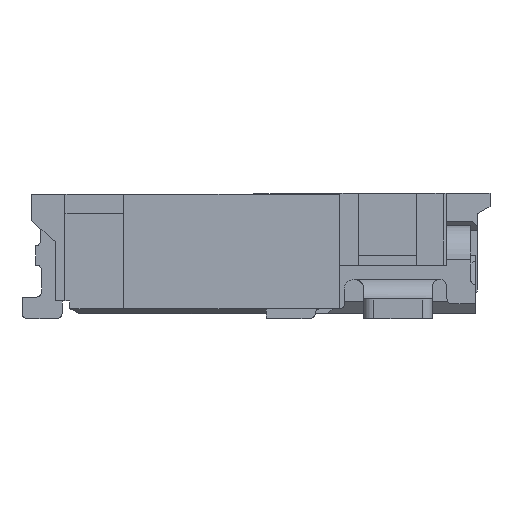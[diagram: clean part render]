
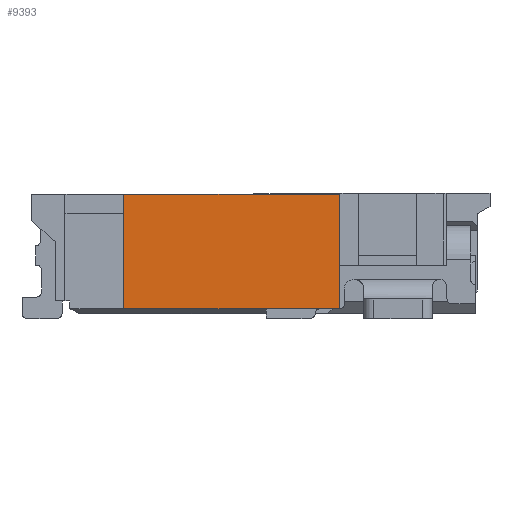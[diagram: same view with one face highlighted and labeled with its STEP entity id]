
A CAD part, front view. The second image highlights one B-rep face of the part: STEP entity #9393.
In plain terms, the highlighted planar face has unit normal (0, -1, 0).
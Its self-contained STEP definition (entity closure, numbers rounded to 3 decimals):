
#380 = CARTESIAN_POINT ( 'NONE',  ( -0.66, -2.9, 1.27 ) ) ;
#598 = DIRECTION ( 'NONE',  ( 0., 0., 1. ) ) ;
#3347 = CARTESIAN_POINT ( 'NONE',  ( 1.55, -2.9, 0.1 ) ) ;
#4935 = VECTOR ( 'NONE', #39461, 1000. ) ;
#6961 = EDGE_CURVE ( 'NONE', #25648, #20935, #33091, .T. ) ;
#8930 = VECTOR ( 'NONE', #35439, 1000. ) ;
#9393 = ADVANCED_FACE ( 'NONE', ( #45099 ), #28753, .F. ) ;
#9677 = VECTOR ( 'NONE', #39605, 1000. ) ;
#14872 = LINE ( 'NONE', #3347, #41913 ) ;
#17768 = CARTESIAN_POINT ( 'NONE',  ( -0.66, -2.9, 0.1 ) ) ;
#18284 = LINE ( 'NONE', #35301, #8930 ) ;
#19168 = EDGE_CURVE ( 'NONE', #25648, #43814, #18284, .T. ) ;
#20935 = VERTEX_POINT ( 'NONE', #17768 ) ;
#21817 = DIRECTION ( 'NONE',  ( 0., 1., 0. ) ) ;
#25648 = VERTEX_POINT ( 'NONE', #37152 ) ;
#26033 = EDGE_CURVE ( 'NONE', #20935, #43050, #37746, .T. ) ;
#28753 = PLANE ( 'NONE',  #35668 ) ;
#30361 = CARTESIAN_POINT ( 'NONE',  ( 1.55, -2.9, 0.1 ) ) ;
#31728 = ORIENTED_EDGE ( 'NONE', *, *, #42699, .F. ) ;
#33091 = LINE ( 'NONE', #380, #4935 ) ;
#35301 = CARTESIAN_POINT ( 'NONE',  ( 2.625, -2.9, 1.27 ) ) ;
#35439 = DIRECTION ( 'NONE',  ( 1., 0., 0. ) ) ;
#35668 = AXIS2_PLACEMENT_3D ( 'NONE', #43003, #21817, #598 ) ;
#35997 = CARTESIAN_POINT ( 'NONE',  ( -1.6, -2.9, 0.1 ) ) ;
#36810 = EDGE_LOOP ( 'NONE', ( #36910, #43887, #31728, #38891 ) ) ;
#36910 = ORIENTED_EDGE ( 'NONE', *, *, #6961, .T. ) ;
#37152 = CARTESIAN_POINT ( 'NONE',  ( -0.66, -2.9, 1.27 ) ) ;
#37746 = LINE ( 'NONE', #35997, #9677 ) ;
#38891 = ORIENTED_EDGE ( 'NONE', *, *, #19168, .F. ) ;
#39461 = DIRECTION ( 'NONE',  ( 0., 0., -1. ) ) ;
#39605 = DIRECTION ( 'NONE',  ( 1., 0., 0. ) ) ;
#41913 = VECTOR ( 'NONE', #42130, 1000. ) ;
#42130 = DIRECTION ( 'NONE',  ( 0., 0., -1. ) ) ;
#42171 = CARTESIAN_POINT ( 'NONE',  ( 1.55, -2.9, 1.27 ) ) ;
#42699 = EDGE_CURVE ( 'NONE', #43814, #43050, #14872, .T. ) ;
#43003 = CARTESIAN_POINT ( 'NONE',  ( 0.125, -2.9, 0. ) ) ;
#43050 = VERTEX_POINT ( 'NONE', #30361 ) ;
#43814 = VERTEX_POINT ( 'NONE', #42171 ) ;
#43887 = ORIENTED_EDGE ( 'NONE', *, *, #26033, .T. ) ;
#45099 = FACE_OUTER_BOUND ( 'NONE', #36810, .T. ) ;
